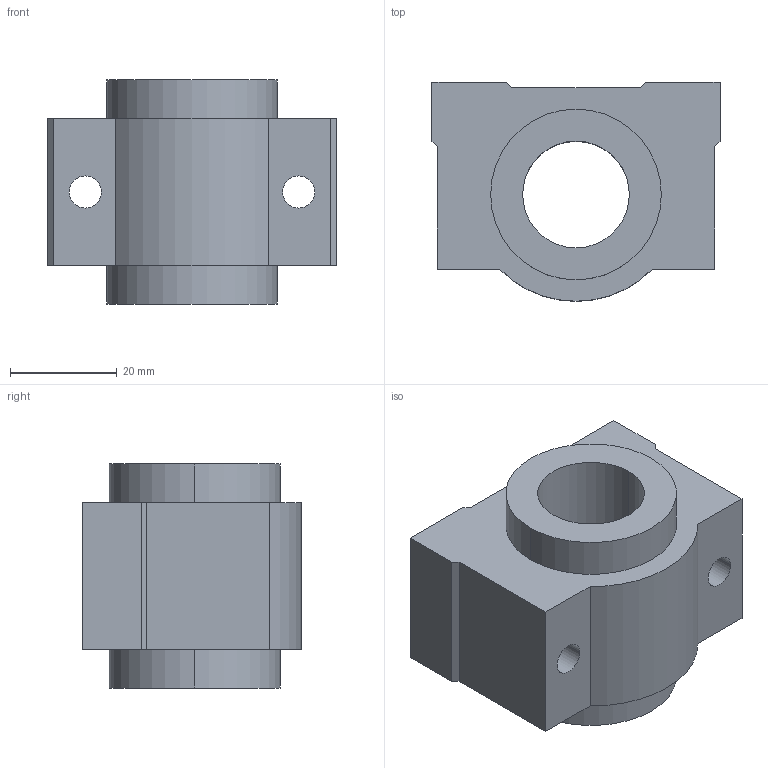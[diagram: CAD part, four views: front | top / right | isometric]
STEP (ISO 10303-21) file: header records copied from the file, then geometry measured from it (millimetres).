
FILE_DESCRIPTION((''),'2;1');
FILE_NAME('C:\Documents and Settings\ｿﾀﾀ蠑ｷ1\ｹﾙﾅﾁ ﾈｭｸ饅\ｺﾎﾇｰﾆﾄﾀﾏ\ﾁｦﾇｰ\SC__VUU\SC20VUU.stp','2005-06-22T14:23:37',('ｿﾀﾀ蠑ｷ1'),(''),'Autodesk Inventor 9','Autodesk Inventor 9','');
FILE_SCHEMA(('AUTOMOTIVE_DESIGN { 1 0 10303 214 1 1 1 1 }'));
Length unit declared in the file: millimetre
Products named in the file (1): SC__VUUN
Bounding box: 54 x 41 x 42 mm (x, y, z)
Volume: 49620.2 mm3; surface area: 13513.8 mm2
Topology: 1 solids, 1 shells, 28 faces, 72 edges, 48 vertices
Faces by surface type: plane 17, cylinder 7, bspline 4
Entity records: 945 total; most frequent: CARTESIAN_POINT 217, DIRECTION 144, ORIENTED_EDGE 144, EDGE_CURVE 72, VECTOR 50, LINE 50, VERTEX_POINT 48, AXIS2_PLACEMENT_3D 47
